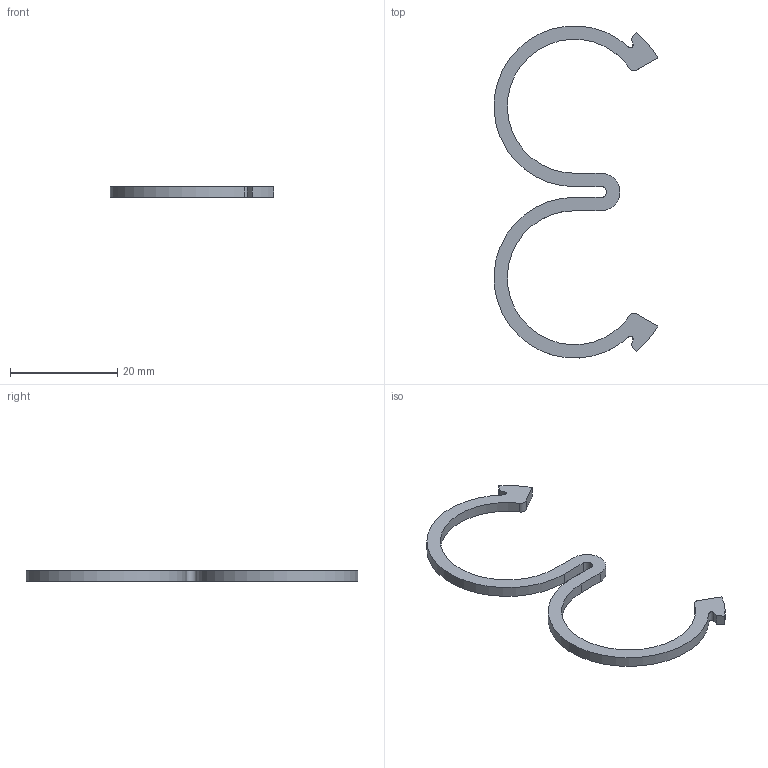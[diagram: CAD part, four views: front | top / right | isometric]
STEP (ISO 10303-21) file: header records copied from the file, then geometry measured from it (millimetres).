
FILE_DESCRIPTION(/* description */ (''),/* implementation_level */ '2;1');
FILE_NAME(/* name */ '',/* time_stamp */ '2025-10-31T16:06:18+09:00',/* author */ ('jhkim'),/* organization */ (''),/* preprocessor_version */ 'ST-DEVELOPER v20.1',/* originating_system */ 'Autodesk Inventor 2026',/* authorisation */ '');
FILE_SCHEMA (('AUTOMOTIVE_DESIGN { 1 0 10303 214 3 1 1 }'));
Length unit declared in the file: millimetre
Products named in the file (1): 3자 실링
Bounding box: 30.57 x 61.94 x 2 mm (x, y, z)
Volume: 724.7 mm3; surface area: 1296.5 mm2
Topology: 1 solids, 1 shells, 24 faces, 66 edges, 44 vertices
Faces by surface type: cylinder 12, plane 12
Entity records: 817 total; most frequent: DIRECTION 140, CARTESIAN_POINT 135, ORIENTED_EDGE 132, EDGE_CURVE 66, AXIS2_PLACEMENT_3D 49, VERTEX_POINT 44, LINE 42, VECTOR 42
